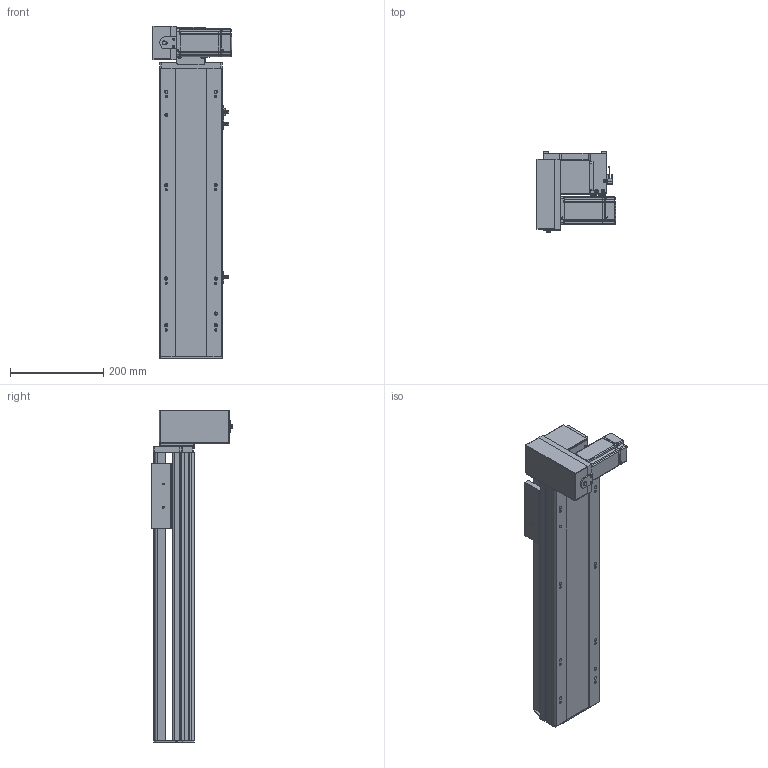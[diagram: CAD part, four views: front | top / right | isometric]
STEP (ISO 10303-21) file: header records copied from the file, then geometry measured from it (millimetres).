
FILE_DESCRIPTION (( 'STEP AP214' ), '1' );
FILE_NAME ('TPT14M-L40-350-LD-T40-C4.STEP', '2023-03-04T01:02:14', ( '' ), ( '' ), 'SwSTEP 2.0', 'SolidWorks 2020', '' );
FILE_SCHEMA (( 'AUTOMOTIVE_DESIGN' ));
Length unit declared in the file: millimetre
Products named in the file (9): 葩璃 TPT14-L-007 々湍釱MZ-169x88^TPT14M-L40-LD-T40-C4_YTB14M; 葩璃 TPT14-L-002 奻裔MZ-135-05^TPT14M-L40-LD-T40-C4; 葩璃 TPT14-L-009 萇儂啣^TPT14M-L40-LD-T40-C4_400W; hexagon head bolts-full thread gb_GB_FASTENER_BOLT_STBAB A M5X16-N; 葩璃 侂狟400W^TPT14M-L40-LD-T40-C4; 葩璃 TPT14-L-005 賑釱MZ-135-07^TPT14M-L40-LD-T40-C4; 葩璃 TPT14-L-001 菁釱MZ-135-01^TPT14M-L40-LD-T40-C4; 葩璃 pm-t65-672^TPT14M-L40-LD-T40-C4; TPT14M-L40-350-LD-T40-C4
Assembly tree (10 placements, depth 2):
  TPT14M-L40-350-LD-T40-C4
    葩璃 TPT14-L-001 菁釱MZ-135-01^TPT14M-L40-LD-T40-C4
    葩璃 TPT14-L-002 奻裔MZ-135-05^TPT14M-L40-LD-T40-C4
    葩璃 TPT14-L-005 賑釱MZ-135-07^TPT14M-L40-LD-T40-C4
    葩璃 TPT14-L-007 々湍釱MZ-169x88^TPT14M-L40-LD-T40-C4_YTB14M
    葩璃 TPT14-L-009 萇儂啣^TPT14M-L40-LD-T40-C4_400W
    葩璃 pm-t65-672^TPT14M-L40-LD-T40-C4  x3
    葩璃 侂狟400W^TPT14M-L40-LD-T40-C4
    hexagon head bolts-full thread gb_GB_FASTENER_BOLT_STBAB A M5X16-N
Bounding box: 170.5 x 173.45 x 710.5 mm (x, y, z)
Volume: 4918969.1 mm3; surface area: 794750.9 mm2
Topology: 18 solids, 18 shells, 1386 faces, 3641 edges, 2332 vertices
Faces by surface type: plane 762, cylinder 468, cone 130, bspline 26
Entity records: 37460 total; most frequent: CARTESIAN_POINT 6998, DIRECTION 6164, ORIENTED_EDGE 5866, EDGE_CURVE 2933, AXIS2_PLACEMENT_3D 2154, VERTEX_POINT 1908, VECTOR 1856, LINE 1856
